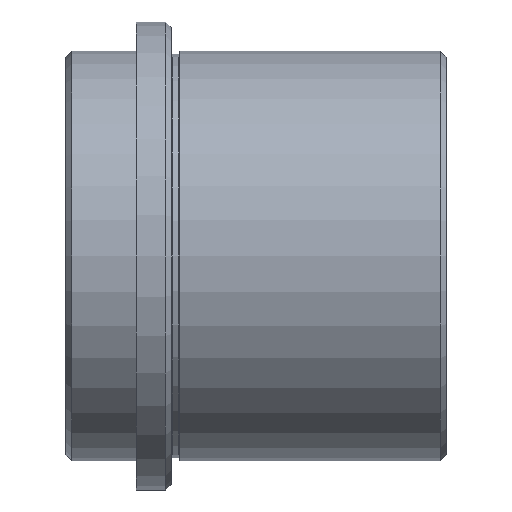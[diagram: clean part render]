
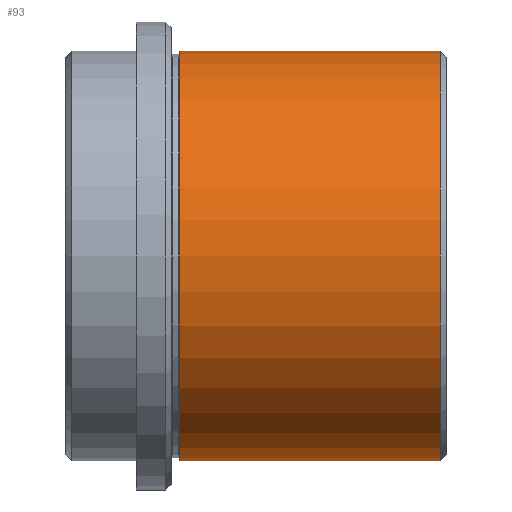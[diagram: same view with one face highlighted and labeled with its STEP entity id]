
A CAD part, left-side view. The second image highlights one B-rep face of the part: STEP entity #93.
In plain terms, the highlighted face is a revolution surface.
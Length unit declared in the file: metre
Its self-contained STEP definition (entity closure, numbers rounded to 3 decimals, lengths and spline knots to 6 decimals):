
#93 = ADVANCED_FACE( '', ( #142 ), #143, .F. );
#142 = FACE_OUTER_BOUND( '', #351, .T. );
#143 = SURFACE_OF_REVOLUTION( '', #352, #353 );
#351 = EDGE_LOOP( '', ( #537, #538, #539, #540 ) );
#352 = B_SPLINE_CURVE_WITH_KNOTS( '', 1, ( #541, #542 ), .UNSPECIFIED., .F., .F., ( 2, 2 ), ( -10000., 10000. ), .UNSPECIFIED. );
#353 = AXIS1_PLACEMENT( '', #543, #544 );
#537 = ORIENTED_EDGE( '', *, *, #650, .F. );
#538 = ORIENTED_EDGE( '', *, *, #658, .F. );
#539 = ORIENTED_EDGE( '', *, *, #659, .T. );
#540 = ORIENTED_EDGE( '', *, *, #656, .F. );
#541 = CARTESIAN_POINT( '', ( 0., 10000.0455, -0.035 ) );
#542 = CARTESIAN_POINT( '', ( 0., -9999.9545, -0.035 ) );
#543 = CARTESIAN_POINT( '', ( 0., 0.0455, 0. ) );
#544 = DIRECTION( '', ( 0., 1., 0. ) );
#650 = EDGE_CURVE( '', #726, #727, #728, .F. );
#656 = EDGE_CURVE( '', #727, #736, #737, .T. );
#658 = EDGE_CURVE( '', #738, #726, #740, .F. );
#659 = EDGE_CURVE( '', #738, #736, #741, .F. );
#726 = VERTEX_POINT( '', #884 );
#727 = VERTEX_POINT( '', #885 );
#728 = CIRCLE( '', #886, 0.035 );
#736 = VERTEX_POINT( '', #896 );
#737 = LINE( '', #897, #898 );
#738 = VERTEX_POINT( '', #899 );
#740 = LINE( '', #901, #902 );
#741 = CIRCLE( '', #903, 0.035 );
#884 = CARTESIAN_POINT( '', ( 0., 0.0455, -0.035 ) );
#885 = CARTESIAN_POINT( '', ( 0., 0.0455, 0.035 ) );
#886 = AXIS2_PLACEMENT_3D( '', #1016, #1017, #1018 );
#896 = CARTESIAN_POINT( '', ( 0., 0.001, 0.035 ) );
#897 = CARTESIAN_POINT( '', ( 0., 0.0455, 0.035 ) );
#898 = VECTOR( '', #1030, 1. );
#899 = CARTESIAN_POINT( '', ( 0., 0.001, -0.035 ) );
#901 = CARTESIAN_POINT( '', ( 0., 0.0455, -0.035 ) );
#902 = VECTOR( '', #1034, 1. );
#903 = AXIS2_PLACEMENT_3D( '', #1035, #1036, #1037 );
#1016 = CARTESIAN_POINT( '', ( 0., 0.0455, 0. ) );
#1017 = DIRECTION( '', ( 0., -1., 0. ) );
#1018 = DIRECTION( '', ( 0., 0., -1. ) );
#1030 = DIRECTION( '', ( 0., -1., 0. ) );
#1034 = DIRECTION( '', ( 0., -1., 0. ) );
#1035 = CARTESIAN_POINT( '', ( 0., 0.001, 0. ) );
#1036 = DIRECTION( '', ( 0., -1., 0. ) );
#1037 = DIRECTION( '', ( 0., 0., -1. ) );
